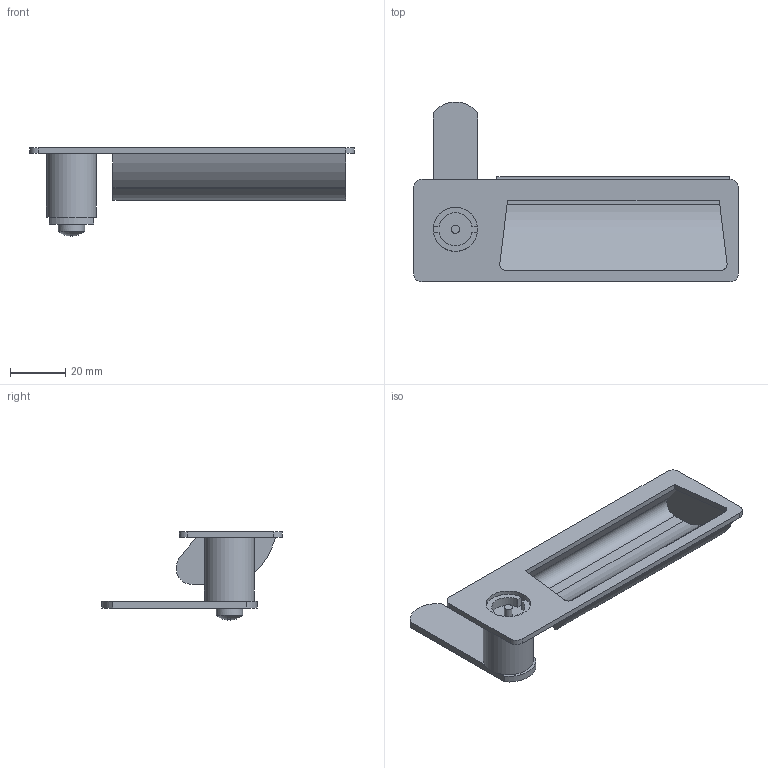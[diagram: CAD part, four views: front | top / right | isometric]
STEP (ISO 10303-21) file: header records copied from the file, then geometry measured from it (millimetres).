
FILE_DESCRIPTION( ( 'STEP AP203' ), '1' );
FILE_NAME( 'C:/Temp/Ganter_Step_05_03_2020/data/3_3/gn731_5/gn731_5_1/Latche with gripping tray GN 731.5-VDE-0-46-1-SG (0-23).stp', '2020-03-12T11:49:25', ( 'License CC BY-ND 4.0' ), ( 'CADENAS' ), ' ', 'PARTsolutions', ' ' );
FILE_SCHEMA( ( 'CONFIG_CONTROL_DESIGN' ) );
Length unit declared in the file: millimetre
Products named in the file (3): Latche with gripping tray GN 731.5-VDE-0-46-1-SG (0-23); _Latche with gripping tray GN 731.5-VDE-0-46-1-SG (0)_1; _Latche with gripping tray GN 731.5-VDE-0-46-1-SG (0-23)_2
Assembly tree (2 placements, depth 2):
  Latche with gripping tray GN 731.5-VDE-0-46-1-SG (0-23)
    _Latche with gripping tray GN 731.5-VDE-0-46-1-SG (0)_1
    _Latche with gripping tray GN 731.5-VDE-0-46-1-SG (0-23)_2
Bounding box: 117 x 64.96 x 31.88 mm (x, y, z)
Volume: 24463.2 mm3; surface area: 20386.3 mm2
Topology: 2 solids, 2 shells, 90 faces, 230 edges, 150 vertices
Faces by surface type: plane 66, cylinder 23, sphere 1
Full cylindrical faces by diameter (mm): 3 x1, 9.5 x1, 16 x1, 18 x1
Entity records: 2775 total; most frequent: DIRECTION 477, CARTESIAN_POINT 460, ORIENTED_EDGE 442, EDGE_CURVE 221, AXIS2_PLACEMENT_3D 163, LINE 151, VECTOR 151, VERTEX_POINT 146
